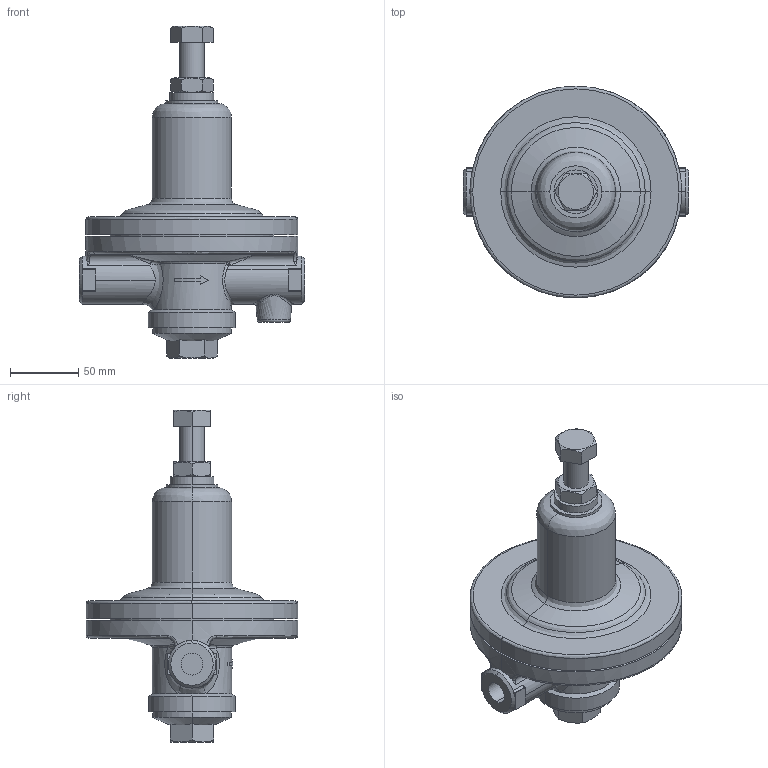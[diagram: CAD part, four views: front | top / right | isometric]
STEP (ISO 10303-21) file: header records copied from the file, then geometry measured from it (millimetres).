
FILE_DESCRIPTION( (''), '2;1');
FILE_NAME ('PC1276.11612.GD-6 15A_27616.stp','2026-01-15T14:15:55',(''),(''),'spGate 20.6.3 (****-****-****-****)','','');
FILE_SCHEMA (('AUTOMOTIVE_DESIGN'));
Length unit declared in the file: millimetre
Bounding box: 165 x 155 x 243.02 mm (x, y, z)
Volume: 1093402.1 mm3; surface area: 106032.4 mm2
Topology: 1 solids, 1 shells, 172 faces, 423 edges, 259 vertices
Faces by surface type: bspline 67, plane 62, cylinder 40, sphere 3
Entity records: 11608 total; most frequent: CARTESIAN_POINT 4753, ORIENTED_EDGE 834, DIRECTION 613, COLOUR_RGB 590, PRESENTATION_STYLE_ASSIGNMENT 590, STYLED_ITEM 590, EDGE_CURVE 417, DRAUGHTING_PRE_DEFINED_CURVE_FONT 417
